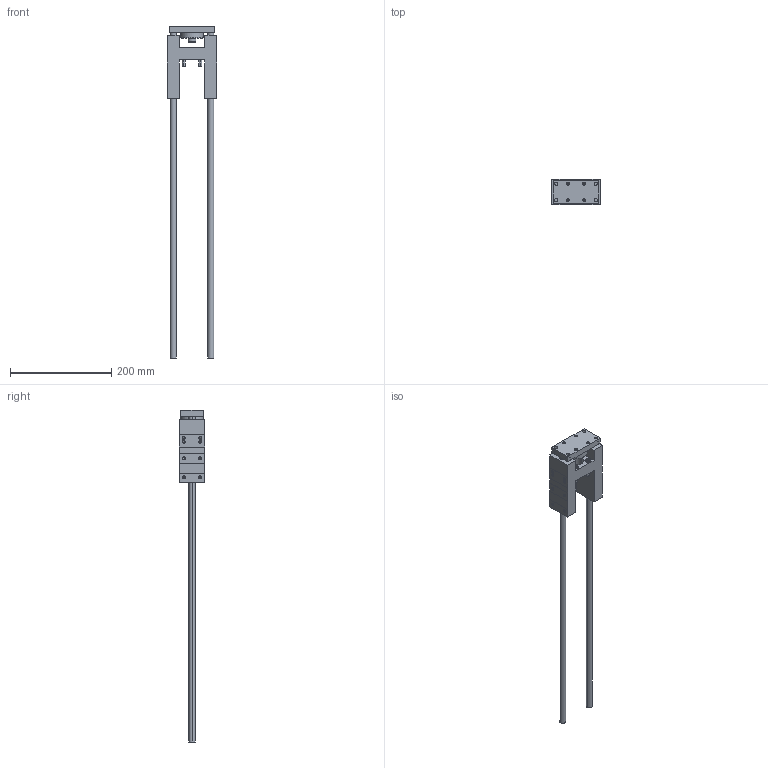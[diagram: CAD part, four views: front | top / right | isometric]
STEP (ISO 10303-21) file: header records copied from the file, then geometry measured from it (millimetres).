
FILE_DESCRIPTION (( 'STEP AP203' ), '1' );
FILE_NAME ('GB32-500.STEP', '2020-04-24T11:14:07', ( '' ), ( '' ), 'SwSTEP 2.0', 'SolidWorks 2019', '' );
FILE_SCHEMA (( 'CONFIG_CONTROL_DESIGN' ));
Length unit declared in the file: millimetre
Products named in the file (1): GB32-500
Bounding box: 97 x 50 x 655 mm (x, y, z)
Volume: 507033.7 mm3; surface area: 130055.5 mm2
Topology: 6 solids, 6 shells, 377 faces, 862 edges, 494 vertices
Faces by surface type: cone 154, plane 117, cylinder 106
Entity records: 11155 total; most frequent: CARTESIAN_POINT 2540, DIRECTION 1916, ORIENTED_EDGE 1660, EDGE_CURVE 830, AXIS2_PLACEMENT_3D 756, VERTEX_POINT 494, EDGE_LOOP 444, VECTOR 404
